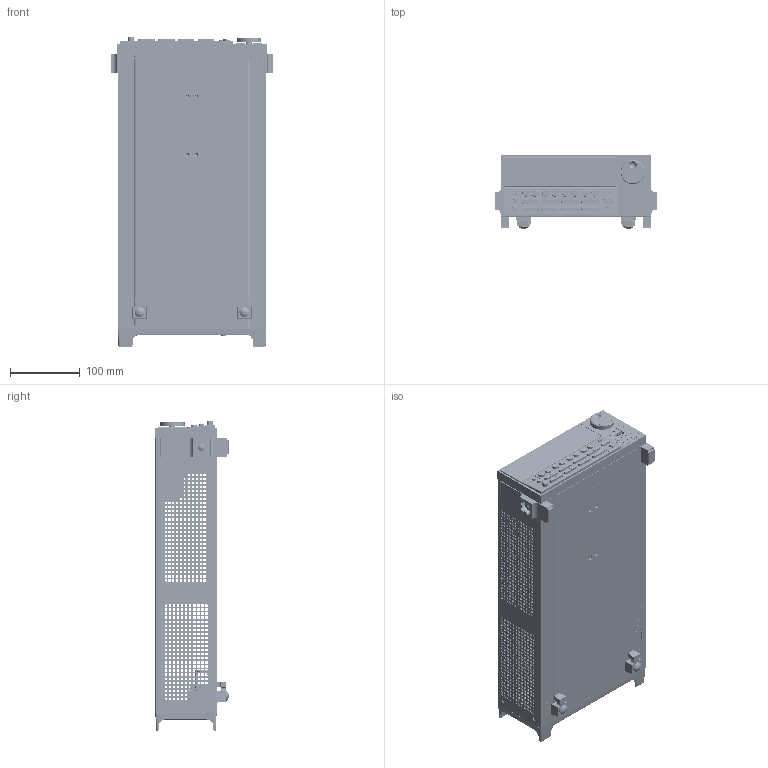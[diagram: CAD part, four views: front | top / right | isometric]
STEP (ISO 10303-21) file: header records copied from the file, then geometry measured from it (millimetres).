
FILE_DESCRIPTION((''),'2;1');
FILE_NAME('2602B_ASM','2014-04-22T',('jpeters'),('Keithley Instruments, Inc'),'PRO/ENGINEER BY PARAMETRIC TECHNOLOGY CORPORATION, 2012480','PRO/ENGINEER BY PARAMETRIC TECHNOLOGY CORPORATION, 2012480','');
FILE_SCHEMA(('CONFIG_CONTROL_DESIGN'));
Length unit declared in the file: inch
Products named in the file (58): 2602-301; 2602B-303; 2602B-304; 2602B-303_ASM; 6-32X1-4PFH; BJ-19-5; LF-11-PURCHPART; CS-507; CS-1150; CS-1209; CS-1032; 2602B-140_ASM; CS-713; 4-40X1-4PPH; CA-357-2-ASSY; CS-725; CA-358-ASSY; 7002-323-2; 2602-130_ASM; 428-319; FE-6; 2602A-305; 2602-306; 2602A-325_ASM; 2602A-315; 2602-316; 2602A-315_ASM; 2602-011-ENG; 2602-326; SW-515-1; 6-32X1-4PPHSEM; 4-40X3-8PFH; CA-311-4INSTALLED; 2602A-313; 2001-371; 236-305-1; GCS-1-2; 2000-324; GCS-1-2_ASM; 2602B-312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
Assembly tree (86 placements, depth 5):
  2602B_ASM
    2602-301
    2602B-303_ASM
      2602B-303
      2602B-304
    6-32X1-4PFH  x4
    BJ-19-5
    LF-11-PURCHPART
    2602B-140_ASM
      CS-507
      CS-1150
      CS-1209  x2
      CS-1032
    CS-713  x2
    4-40X1-4PPH  x10
    CA-357-2-ASSY
    CS-725  x4
    CA-358-ASSY
    2602-130_ASM
      7002-323-2
    428-319  x2
    FE-6  x2
    2602B-FRONT-PANEL_ASM
      2602A-325_ASM
        2602A-305
        2602-306
      2602A-315_ASM
        2602A-315
        2602-316
      2602-011-ENG
      2602-326
      SW-515-1
      6-32X1-4PPHSEM  x2
      4-40X3-8PFH  x2
      CA-311-4INSTALLED
      2602A-313
      2001-371  x2
      236-305-1
      2602B-311_ASM
        GCS-1-2_ASM
          GCS-1-2
          2000-324
        2602B-312
    2602-100_ASM  x2
      CS-1194-8
    2600-TOP-COVER_ASM
      2602A-310
      2602-329
    428-303
    FA-232-1  x2
    MC-615
    4-40X1-4PFH  x4
    2602-352-RIGHT-EAR-MICRO_ASM
      2602-352
      FA-230-2
      FE-22
    2602-354-LEFT-EAR-MICRO_ASM
      2602-354
      FA-230-2
      FE-22
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Bounding box: 231.65 x 105.44 x 445.11 mm (x, y, z)
Volume: 834882.4 mm3; surface area: 1010361.3 mm2
Topology: 103 solids, 107 shells, 20001 faces, 56160 edges, 37239 vertices
Faces by surface type: plane 17833, cylinder 1833, cone 231, torus 51, sphere 32, bspline 15, extrusion 6
Entity records: 600359 total; most frequent: CARTESIAN_POINT 108217, ORIENTED_EDGE 104708, DIRECTION 92610, EDGE_CURVE 52354, VECTOR 48900, LINE 48896, VERTEX_POINT 34753, EDGE_LOOP 23149
